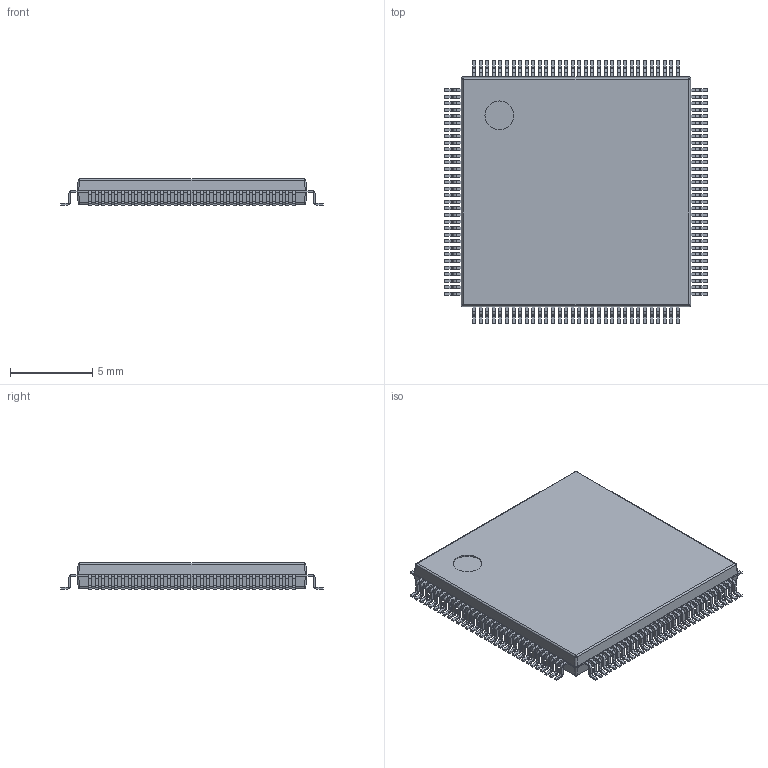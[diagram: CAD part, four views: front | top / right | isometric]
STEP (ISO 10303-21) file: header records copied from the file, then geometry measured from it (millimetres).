
FILE_DESCRIPTION(('Open CASCADE Model'),'2;1');
FILE_NAME('Open CASCADE Shape Model','2023-12-11T16:55:07',('Author'),( 'Open CASCADE'),'Open CASCADE STEP processor 7.5','Open CASCADE 7.5' ,'Unknown');
FILE_SCHEMA(('AUTOMOTIVE_DESIGN { 1 0 10303 214 1 1 1 1 }'));
Length unit declared in the file: millimetre
Products named in the file (6): TSQFP40P1600X1600X160-128N.step; Open CASCADE STEP translator 7.5 11.1; Body; Open CASCADE STEP translator 7.5 11.2.1; Leader
Assembly tree (131 placements, depth 3):
  TSQFP40P1600X1600X160-128N.step
    Open CASCADE STEP translator 7.5 11.1
    Body
      Open CASCADE STEP translator 7.5 11.2.1
    Leader  x64
    Leader  x64
Bounding box: 16 x 16 x 1.6 mm (x, y, z)
Volume: 304.2 mm3; surface area: 594.1 mm2
Topology: 129 solids, 130 shells, 2877 faces, 5756 edges, 3131 vertices
Faces by surface type: plane 2320, cylinder 541, bspline 8, sphere 8
Full cylindrical faces by diameter (mm): 1.75 x1
Entity records: 7597 total; most frequent: CARTESIAN_POINT 2591, DIRECTION 956, ORIENTED_EDGE 407, PCURVE 407, DEFINITIONAL_REPRESENTATION 407, LINE 401, VECTOR 401, AXIS2_PLACEMENT_3D 272
